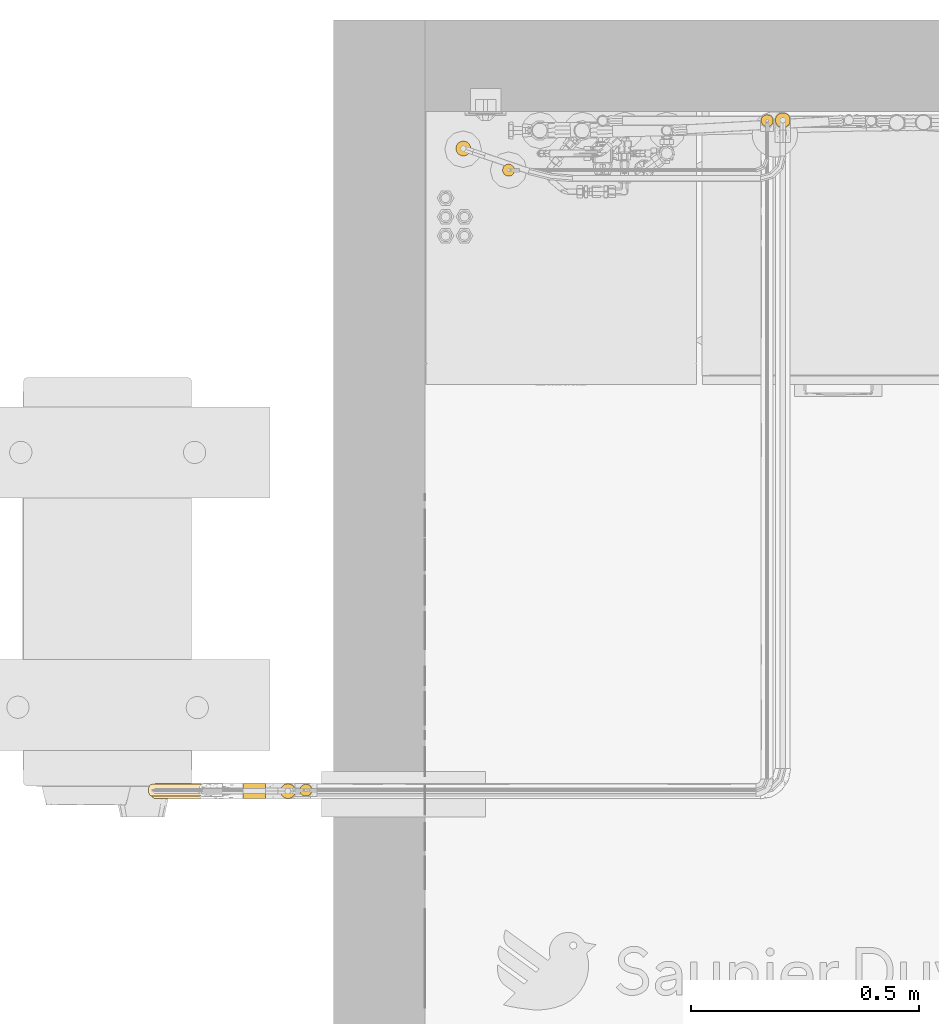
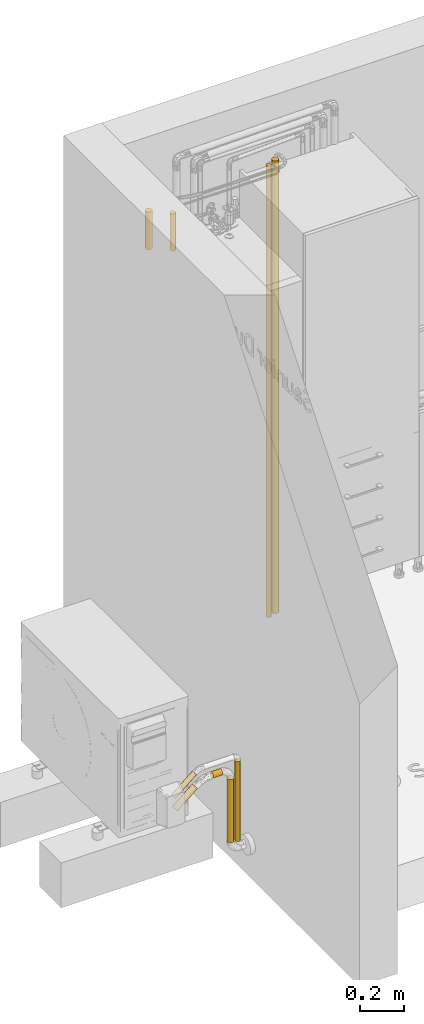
# One storey, part 2 of 30: 9 coverings.
"""IFC2X3 building model written with IfcOpenShell, lengths in metres."""

import ifcopenshell
import ifcopenshell.guid

model = None  # the IFC model being written
_history = None  # IfcOwnerHistory: only IFC2X3 demands one
_inside = {}  # id of a spatial element -> (the spatial element, [elements in it])
_under = {}  # id of a project, library or spatial element -> (it, [spatial elements below it])
_declared = {}  # id of a project -> (the project, [libraries it declares])
_typed = {}  # id of a type object -> (the type object, [elements of that type])
_made_of = {}  # id of a material, layer set ... -> (it, [elements and type objects made of it])


def new_model(schema):
    """Start an empty IFC model of exactly this schema.

    Asked for "IFC4X3", IfcOpenShell would pick the latest addendum, in which some entities
    have other attributes; the version numbers below select the first issue.
    IFC2X3 requires an IfcOwnerHistory on every rooted entity: one is made here for all.
    """
    global model, _history
    if schema == "IFC4X3":
        model = ifcopenshell.file(schema_version=(4, 3, 0, 0))
    else:
        model = ifcopenshell.file(schema=schema)
    _inside.clear()
    _under.clear()
    _declared.clear()
    _typed.clear()
    _made_of.clear()
    _history = None
    if model.schema == "IFC2X3":
        org = make("IfcOrganization", Name="unknown")
        user = make(
            "IfcPersonAndOrganization",
            ThePerson=make("IfcPerson", FamilyName="unknown"),
            TheOrganization=org,
        )
        app = make(
            "IfcApplication",
            ApplicationDeveloper=org,
            Version="unknown",
            ApplicationFullName="unknown",
            ApplicationIdentifier="unknown",
        )
        _history = make(
            "IfcOwnerHistory",
            OwningUser=user,
            OwningApplication=app,
            ChangeAction="ADDED",
            CreationDate=0,
        )
    return model


def make(cls, **values):
    """One entity of the class cls with the attributes given. An attribute that is None is left unset."""
    return model.create_entity(
        cls, **{name: value for name, value in values.items() if value is not None}
    )


def entity(cls, *values):
    """Any entity or typed value of the class cls, its attributes in the order of the schema. None: left unset."""
    e = model.create_entity(cls)
    for i, value in enumerate(values):
        if value is not None:
            e[i] = value
    return e


def rooted(cls, **values):
    """An entity with a GlobalId (a new one), such as an element, a storey or a relation."""
    return make(cls, GlobalId=ifcopenshell.guid.new(), OwnerHistory=_history, **values)


def si_unit(unit_type, name, prefix=None):
    """IfcSIUnit, for example si_unit("LENGTHUNIT", "METRE", prefix="MILLI")."""
    return make("IfcSIUnit", UnitType=unit_type, Prefix=prefix, Name=name)


def converted_unit(unit_type, name, factor, base, dimensions=None, offset=None):
    """IfcConversionBasedUnit, such as the inch: factor (a typed value) times the base unit."""
    return make(
        "IfcConversionBasedUnit"
        if offset is None
        else "IfcConversionBasedUnitWithOffset",
        ConversionOffset=offset,
        Dimensions=None
        if dimensions is None
        else entity("IfcDimensionalExponents", *dimensions),
        UnitType=unit_type,
        Name=name,
        ConversionFactor=make(
            "IfcMeasureWithUnit", ValueComponent=factor, UnitComponent=base
        ),
    )


def derived_unit(unit_type, elements):
    """IfcDerivedUnit: a product of units, each with its exponent."""
    return make(
        "IfcDerivedUnit",
        Elements=[
            make("IfcDerivedUnitElement", Unit=unit, Exponent=power)
            for unit, power in elements
        ],
        UnitType=unit_type,
    )


def assignment(units):
    """IfcUnitAssignment: the units of a project."""
    return None if units is None else make("IfcUnitAssignment", Units=units)


def point(xyz):
    """IfcCartesianPoint."""
    return None if xyz is None else make("IfcCartesianPoint", Coordinates=xyz)


def direction(xyz):
    """IfcDirection."""
    return None if xyz is None else make("IfcDirection", DirectionRatios=xyz)


def frame(location, z_axis=None, x_axis=None):
    """IfcAxis2Placement3D, a coordinate frame: its origin and axes. An axis left out is left unset."""
    return make(
        "IfcAxis2Placement3D",
        Location=point(location),
        Axis=direction(z_axis),
        RefDirection=direction(x_axis),
    )


def frame_2d(location, x_axis=None):
    """IfcAxis2Placement2D, a coordinate frame in the plane: its origin and x axis."""
    return make(
        "IfcAxis2Placement2D", Location=point(location), RefDirection=direction(x_axis)
    )


def origin():
    """The frame at (0, 0, 0) with its axes left unset."""
    return frame((0.0, 0.0, 0.0))


def origin_2d_with_axis():
    """The frame at (0, 0) in the plane with the x axis (1, 0) written out."""
    return frame_2d((0.0, 0.0), x_axis=(1.0, 0.0))


def place(relative_to, where):
    """IfcLocalPlacement: puts the frame where relative to a parent placement (None: the world)."""
    return make(
        "IfcLocalPlacement", PlacementRelTo=relative_to, RelativePlacement=where
    )


def context(
    kind, dimensions, precision=None, world=None, true_north=None, identifier=None
):
    """IfcGeometricRepresentationContext, for example the 3D "Model" context."""
    return make(
        "IfcGeometricRepresentationContext",
        ContextIdentifier=identifier,
        ContextType=kind,
        CoordinateSpaceDimension=dimensions,
        Precision=precision,
        WorldCoordinateSystem=world,
        TrueNorth=true_north,
    )


def subcontext(parent, identifier, kind, view, scale=None):
    """IfcGeometricRepresentationSubContext, for example "Body" below "Model"."""
    return make(
        "IfcGeometricRepresentationSubContext",
        ContextIdentifier=identifier,
        ContextType=kind,
        ParentContext=parent,
        TargetScale=scale,
        TargetView=view,
    )


def project(units=None, contexts=None):
    """IfcProject with its units and contexts."""
    return rooted(
        "IfcProject",
        Name="project",
        RepresentationContexts=contexts,
        UnitsInContext=assignment(units),
    )


def spatial(cls, under=None, at=None, **own):
    """A site, building, storey or space (cls), placed at a placement, below another one or the project."""
    s = rooted(cls, ObjectPlacement=at, **own)
    if under is not None:
        _under.setdefault(under.id(), (under, []))[1].append(s)
    return s


def profile(cls, at=None, kind="AREA", **sizes):
    """A parametric profile (cls). Its sizes go by their IFC names, for example OverallWidth=200.0."""
    return make(cls, ProfileType=kind, Position=at, **sizes)


def circle(**sizes):
    """IfcCircleProfileDef."""
    return profile("IfcCircleProfileDef", **sizes)


def extrude(swept, where, along, depth):
    """IfcExtrudedAreaSolid: the profile swept, set in the frame where, extruded along a direction by depth."""
    return make(
        "IfcExtrudedAreaSolid",
        SweptArea=swept,
        Position=where,
        ExtrudedDirection=direction(along),
        Depth=depth,
    )


def shape(context_of_items, identifier, shape_type, items):
    """IfcShapeRepresentation: the items that make up one representation, for example the "Body"."""
    return make(
        "IfcShapeRepresentation",
        ContextOfItems=context_of_items,
        RepresentationIdentifier=identifier,
        RepresentationType=shape_type,
        Items=items,
    )


def material(Name=None, Category=None):
    """IfcMaterial."""
    return make("IfcMaterial", Name=Name, Category=Category)


def made_of(thing, what):
    """Note that an element or type object is made of a material, layer set ...; save() writes the relation."""
    if what is not None:
        _made_of.setdefault(what.id(), (what, []))[1].append(thing)
    return thing


def type_object(cls, material=None, **own):
    """A type object (cls), such as IfcWallType, which elements share."""
    return made_of(rooted(cls, **own), material)


def element(
    cls,
    number,
    at=None,
    inside=None,
    cuts=None,
    type_object=None,
    material=None,
    context=None,
    identifier="Body",
    shape_type=None,
    held_by="IfcProductDefinitionShape",
    body=None,
    shapes=None,
    **own,
):
    """One element of the class cls, such as IfcWall. Its Tag is "e" and its number.

    at: its placement. inside: the storey or other place that contains it. cuts: it is an
    opening in that element (IfcRelVoidsElement). A single representation is given by context,
    identifier, shape_type and body (its items); several are given by shapes. held_by: the class
    of the entity that holds the representations. save() writes the other relations.
    """
    e = rooted(cls, Tag="e%d" % number, ObjectPlacement=at, **own)
    if body is not None:
        shapes = [shape(context, identifier, shape_type, body)]
    if shapes is not None:
        e.Representation = make(held_by, Representations=shapes)
    if inside is not None:
        _inside.setdefault(inside.id(), (inside, []))[1].append(e)
    if cuts is not None:
        rooted(
            "IfcRelVoidsElement", RelatingBuildingElement=cuts, RelatedOpeningElement=e
        )
    if type_object is not None:
        _typed.setdefault(type_object.id(), (type_object, []))[1].append(e)
    return made_of(e, material)


def aggregate(whole, parts):
    """IfcRelAggregates: a whole, such as a stair, and the parts it consists of."""
    return rooted("IfcRelAggregates", RelatingObject=whole, RelatedObjects=parts)


def save(model, path):
    """Write the relations noted so far, then the file.

    IfcRelAggregates (storeys below a building ...), IfcRelContainedInSpatialStructure (elements
    in a storey), IfcRelDefinesByType, IfcRelAssociatesMaterial and IfcRelDeclares: one each for
    every whole, place, type object, material and project.
    """
    for whole, parts in _under.values():
        aggregate(whole, parts)
    for where, things in _inside.values():
        rooted(
            "IfcRelContainedInSpatialStructure",
            RelatedElements=things,
            RelatingStructure=where,
        )
    for kind, things in _typed.values():
        rooted("IfcRelDefinesByType", RelatedObjects=things, RelatingType=kind)
    for what, things in _made_of.values():
        rooted("IfcRelAssociatesMaterial", RelatedObjects=things, RelatingMaterial=what)
    for by, libraries in _declared.values():
        rooted("IfcRelDeclares", RelatingContext=by, RelatedDefinitions=libraries)
    model.write(path)


model = new_model("IFC2X3")

# Units and contexts
model_context = context("Model", 3, precision=1e-05, world=origin(), true_north=direction((6.123031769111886e-17, 1.0)))
body_context = subcontext(model_context, "Body", "Model", "MODEL_VIEW")
ifc_project = project(units=[si_unit("LENGTHUNIT", "METRE"), si_unit("AREAUNIT", "SQUARE_METRE"), si_unit("VOLUMEUNIT", "CUBIC_METRE"), converted_unit("PLANEANGLEUNIT", "DEGREE", entity("IfcPlaneAngleMeasure", 0.017453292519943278), si_unit("PLANEANGLEUNIT", "RADIAN"), dimensions=[0, 0, 0, 0, 0, 0, 0]), si_unit("MASSUNIT", "GRAM", prefix="KILO"), derived_unit("MASSDENSITYUNIT", [(si_unit("MASSUNIT", "GRAM", prefix="KILO"), 1), (si_unit("LENGTHUNIT", "METRE"), -3)]), derived_unit("IONCONCENTRATIONUNIT", [(si_unit("MASSUNIT", "GRAM", prefix="KILO"), 1), (si_unit("LENGTHUNIT", "METRE"), -3)]), derived_unit("MOMENTOFINERTIAUNIT", [(si_unit("LENGTHUNIT", "METRE"), 4)]), si_unit("TIMEUNIT", "SECOND"), si_unit("FREQUENCYUNIT", "HERTZ"), si_unit("THERMODYNAMICTEMPERATUREUNIT", "DEGREE_CELSIUS"), derived_unit("THERMALTRANSMITTANCEUNIT", [(si_unit("MASSUNIT", "GRAM", prefix="KILO"), 1), (si_unit("THERMODYNAMICTEMPERATUREUNIT", "KELVIN"), -1), (si_unit("TIMEUNIT", "SECOND"), -3)]), derived_unit("THERMALCONDUCTANCEUNIT", [(si_unit("MASSUNIT", "GRAM", prefix="KILO"), 1), (si_unit("THERMODYNAMICTEMPERATUREUNIT", "KELVIN"), -1), (si_unit("TIMEUNIT", "SECOND"), -3), (si_unit("LENGTHUNIT", "METRE"), 1)]), derived_unit("VOLUMETRICFLOWRATEUNIT", [(si_unit("LENGTHUNIT", "METRE", prefix="DECI"), 3), (si_unit("TIMEUNIT", "SECOND"), -1)]), derived_unit("MASSFLOWRATEUNIT", [(si_unit("MASSUNIT", "GRAM", prefix="KILO"), 1), (si_unit("TIMEUNIT", "SECOND"), -1)]), derived_unit("ROTATIONALFREQUENCYUNIT", [(si_unit("TIMEUNIT", "SECOND"), -1)]), si_unit("ELECTRICCURRENTUNIT", "AMPERE"), si_unit("ELECTRICVOLTAGEUNIT", "VOLT"), si_unit("POWERUNIT", "WATT"), si_unit("FORCEUNIT", "NEWTON", prefix="KILO"), si_unit("ILLUMINANCEUNIT", "LUX"), si_unit("LUMINOUSFLUXUNIT", "LUMEN"), si_unit("LUMINOUSINTENSITYUNIT", "CANDELA"), si_unit("ENERGYUNIT", "JOULE"), derived_unit("USERDEFINED", [(si_unit("MASSUNIT", "GRAM", prefix="KILO"), -1), (si_unit("LENGTHUNIT", "METRE"), -2), (si_unit("TIMEUNIT", "SECOND"), 3), (si_unit("LUMINOUSFLUXUNIT", "LUMEN"), 1)]), derived_unit("USERDEFINED", [(si_unit("MASSUNIT", "GRAM", prefix="KILO"), 1), (si_unit("TIMEUNIT", "SECOND"), -3), (si_unit("LENGTHUNIT", "METRE"), 3), (si_unit("ELECTRICCURRENTUNIT", "AMPERE"), -2)]), derived_unit("SOUNDPOWERUNIT", [(si_unit("MASSUNIT", "GRAM", prefix="KILO"), 1), (si_unit("TIMEUNIT", "SECOND"), -3), (si_unit("LENGTHUNIT", "METRE"), 2)]), derived_unit("SOUNDPRESSUREUNIT", [(si_unit("MASSUNIT", "GRAM", prefix="KILO"), 1), (si_unit("LENGTHUNIT", "METRE"), -1), (si_unit("TIMEUNIT", "SECOND"), -2)]), derived_unit("LINEARVELOCITYUNIT", [(si_unit("LENGTHUNIT", "METRE"), 1), (si_unit("TIMEUNIT", "SECOND"), -1)]), si_unit("PRESSUREUNIT", "PASCAL"), derived_unit("USERDEFINED", [(si_unit("MASSUNIT", "GRAM", prefix="KILO"), 1), (si_unit("LENGTHUNIT", "METRE"), -2), (si_unit("TIMEUNIT", "SECOND"), -2)]), derived_unit("LINEARFORCEUNIT", [(si_unit("MASSUNIT", "GRAM", prefix="KILO"), 1), (si_unit("TIMEUNIT", "SECOND"), -2)]), derived_unit("PLANARFORCEUNIT", [(si_unit("MASSUNIT", "GRAM", prefix="KILO"), 1), (si_unit("LENGTHUNIT", "METRE"), -1), (si_unit("TIMEUNIT", "SECOND"), -2)]), derived_unit("SPECIFICHEATCAPACITYUNIT", [(si_unit("THERMODYNAMICTEMPERATUREUNIT", "KELVIN"), -1), (si_unit("LENGTHUNIT", "METRE"), 2), (si_unit("TIMEUNIT", "SECOND"), -2)]), derived_unit("HEATFLUXDENSITYUNIT", [(si_unit("MASSUNIT", "GRAM", prefix="KILO"), 1), (si_unit("TIMEUNIT", "SECOND"), -3)]), derived_unit("HEATINGVALUEUNIT", [(si_unit("LENGTHUNIT", "METRE"), 2), (si_unit("TIMEUNIT", "SECOND"), -2)]), derived_unit("VAPORPERMEABILITYUNIT", [(si_unit("LENGTHUNIT", "METRE"), -1), (si_unit("TIMEUNIT", "SECOND"), 1)]), derived_unit("DYNAMICVISCOSITYUNIT", [(si_unit("MASSUNIT", "GRAM", prefix="KILO"), 1), (si_unit("TIMEUNIT", "SECOND"), -1), (si_unit("LENGTHUNIT", "METRE"), -1)]), derived_unit("THERMALEXPANSIONCOEFFICIENTUNIT", [(si_unit("THERMODYNAMICTEMPERATUREUNIT", "KELVIN"), -1)]), derived_unit("MODULUSOFELASTICITYUNIT", [(si_unit("MASSUNIT", "GRAM", prefix="KILO"), 1), (si_unit("LENGTHUNIT", "METRE"), -1), (si_unit("TIMEUNIT", "SECOND"), -2)]), derived_unit("ISOTHERMALMOISTURECAPACITYUNIT", [(si_unit("MASSUNIT", "GRAM", prefix="KILO"), -1), (si_unit("LENGTHUNIT", "METRE"), 3)]), derived_unit("MOISTUREDIFFUSIVITYUNIT", [(si_unit("TIMEUNIT", "SECOND"), -1), (si_unit("LENGTHUNIT", "METRE"), 2)]), derived_unit("MASSPERLENGTHUNIT", [(si_unit("MASSUNIT", "GRAM", prefix="KILO"), 1), (si_unit("LENGTHUNIT", "METRE"), -1)]), derived_unit("THERMALRESISTANCEUNIT", [(si_unit("MASSUNIT", "GRAM", prefix="KILO"), -1), (si_unit("TIMEUNIT", "SECOND"), 3), (si_unit("THERMODYNAMICTEMPERATUREUNIT", "KELVIN"), 1)]), derived_unit("ACCELERATIONUNIT", [(si_unit("LENGTHUNIT", "METRE"), 1), (si_unit("TIMEUNIT", "SECOND"), -2)]), derived_unit("ANGULARVELOCITYUNIT", [(si_unit("TIMEUNIT", "SECOND"), -1), (si_unit("PLANEANGLEUNIT", "RADIAN"), 1)]), derived_unit("LINEARSTIFFNESSUNIT", [(si_unit("MASSUNIT", "GRAM", prefix="KILO"), 1), (si_unit("TIMEUNIT", "SECOND"), -2)]), derived_unit("WARPINGCONSTANTUNIT", [(si_unit("LENGTHUNIT", "METRE"), 6)]), derived_unit("LINEARMOMENTUNIT", [(si_unit("MASSUNIT", "GRAM", prefix="KILO"), 1), (si_unit("LENGTHUNIT", "METRE"), 1), (si_unit("TIMEUNIT", "SECOND"), -2)]), derived_unit("TORQUEUNIT", [(si_unit("MASSUNIT", "GRAM", prefix="KILO"), 1), (si_unit("LENGTHUNIT", "METRE"), 2), (si_unit("TIMEUNIT", "SECOND"), -2)])], contexts=[model_context])

# Site, building, storey
site_placement = place(None, origin())
site = spatial("IfcSite", under=ifc_project, at=site_placement, Name="Default", CompositionType="ELEMENT")
building_placement = place(site_placement, origin())
building = spatial("IfcBuilding", under=site, at=building_placement, CompositionType="ELEMENT")
storey_placement = place(building_placement, origin())
storey = spatial("IfcBuildingStorey", under=building, at=storey_placement, Name="Niveau 0", CompositionType="ELEMENT", Elevation=-1.949160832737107e-14)

# Coverings
ifc_material = material(Name="Matériau du rendu 255-255-255")
covering_type = type_object("IfcCoveringType", Name="Isolation des canalisations:Par défaut", PredefinedType="INSULATION")
covering_1_placement = place(storey_placement, origin())
element("IfcCovering", 1, at=covering_1_placement, inside=storey, type_object=covering_type, material=ifc_material, Name="Isolation des canalisations:Par défaut", ObjectType="Isolation des canalisations:Par défaut", PredefinedType="INSULATION", context=body_context, shape_type="SweptSolid", body=[
    extrude(circle(Radius=0.01635, at=frame_2d((0.0, -1.2689848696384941e-17), x_axis=(1.0, 0.0))), frame((-21.015311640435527, 1.3750530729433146, 0.03567251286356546), z_axis=(0.9999999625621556, 0.0, 0.0002736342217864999), x_axis=(0.0, -1.0, 0.0)), (0.0, 0.0, 1.0), 0.04967560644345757),
])
covering_2_placement = place(storey_placement, origin())
element("IfcCovering", 2, at=covering_2_placement, inside=storey, type_object=covering_type, material=ifc_material, Name="Isolation des canalisations:Par défaut", ObjectType="Isolation des canalisations:Par défaut", PredefinedType="INSULATION", context=body_context, shape_type="SweptSolid", body=[
    extrude(circle(Radius=0.01635, at=frame_2d((0.0, -7.776790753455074e-17), x_axis=(1.0, 0.0))), frame((-21.208033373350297, 1.375053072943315, -0.08467319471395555), z_axis=(0.7660444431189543, 0.0, 0.6427876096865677), x_axis=(0.0, -1.0, 0.0)), (0.0, 0.0, 1.0), 0.13792377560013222),
])
covering_3_placement = place(storey_placement, origin())
element("IfcCovering", 3, at=covering_3_placement, inside=storey, type_object=covering_type, material=ifc_material, Name="Isolation des canalisations:Par défaut", ObjectType="Isolation des canalisations:Par défaut", PredefinedType="INSULATION", context=body_context, shape_type="SweptSolid", body=[
    extrude(circle(Radius=0.01635, at=origin_2d_with_axis()), frame((-19.82878943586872, 2.849276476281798, -0.36570000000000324)), (0.0, 0.0, 1.0), 2.5215379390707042),
])
covering_4_placement = place(storey_placement, origin())
element("IfcCovering", 4, at=covering_4_placement, inside=storey, type_object=covering_type, material=ifc_material, Name="Isolation des canalisations:Par défaut", ObjectType="Isolation des canalisations:Par défaut", PredefinedType="INSULATION", context=body_context, shape_type="SweptSolid", body=[
    extrude(circle(Radius=0.01635, at=origin_2d_with_axis()), frame((-20.916336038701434, 1.3750530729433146, -0.36570000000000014), z_axis=(0.0, 0.0, 1.0), x_axis=(-1.616232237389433e-06, 1.0, 0.0)), (0.0, 0.0, 1.0), 0.3521028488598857),
])
covering_5_placement = place(storey_placement, origin())
element("IfcCovering", 5, at=covering_5_placement, inside=storey, type_object=covering_type, material=ifc_material, Name="Isolation des canalisations:Par défaut", ObjectType="Isolation des canalisations:Par défaut", PredefinedType="INSULATION", context=body_context, shape_type="SweptSolid", body=[
    extrude(circle(Radius=0.01635, at=origin_2d_with_axis()), frame((-20.530759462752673, 2.787065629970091, 1.9450000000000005), z_axis=(0.0, 0.0, 1.0), x_axis=(0.32556815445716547, 0.9455185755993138, 0.0)), (0.0, 0.0, 1.0), 0.21083793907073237),
])
covering_6_placement = place(storey_placement, origin())
element("IfcCovering", 6, at=covering_6_placement, inside=storey, type_object=covering_type, material=ifc_material, Name="Isolation des canalisations:Par défaut", ObjectType="Isolation des canalisations:Par défaut", PredefinedType="INSULATION", context=body_context, shape_type="SweptSolid", body=[
    extrude(circle(Radius=0.0132, at=frame_2d((0.0, -7.128724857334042e-17), x_axis=(1.0, 0.0))), frame((-21.21447863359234, 1.3770530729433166, -0.015673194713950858), z_axis=(0.7660444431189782, 0.0, 0.642787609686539), x_axis=(0.0, 1.0, 0.0)), (0.0, 0.0, 1.0), 0.14549999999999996),
])
covering_7_placement = place(storey_placement, origin())
element("IfcCovering", 7, at=covering_7_placement, inside=storey, type_object=covering_type, material=ifc_material, Name="Isolation des canalisations:Par défaut", ObjectType="Isolation des canalisations:Par défaut", PredefinedType="INSULATION", context=body_context, shape_type="SweptSolid", body=[
    extrude(circle(Radius=0.0132, at=frame_2d((8.662937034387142e-15, -1.895017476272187e-15), x_axis=(1.0, 0.0))), frame((-20.87690869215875, 1.377053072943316, -0.3758999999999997)), (0.0, 0.0, 1.0), 0.4451435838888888),
])
covering_8_placement = place(storey_placement, origin())
element("IfcCovering", 8, at=covering_8_placement, inside=storey, type_object=covering_type, material=ifc_material, Name="Isolation des canalisations:Par défaut", ObjectType="Isolation des canalisations:Par défaut", PredefinedType="INSULATION", context=body_context, shape_type="SweptSolid", body=[
    extrude(circle(Radius=0.0132, at=frame_2d((4.331468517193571e-15, 5.95576921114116e-15), x_axis=(1.0, 0.0))), frame((-20.4312893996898, 2.7395264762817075, 1.9300000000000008), z_axis=(0.0, 0.0, 1.0), x_axis=(-1.0, 0.0, 0.0)), (0.0, 0.0, 1.0), 0.2079885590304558),
])
covering_9_placement = place(storey_placement, origin())
element("IfcCovering", 9, at=covering_9_placement, inside=storey, type_object=covering_type, material=ifc_material, Name="Isolation des canalisations:Par défaut", ObjectType="Isolation des canalisations:Par défaut", PredefinedType="INSULATION", context=body_context, shape_type="SweptSolid", body=[
    extrude(circle(Radius=0.0132, at=origin_2d_with_axis()), frame((-19.86316439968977, 2.8482764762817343, -0.37589999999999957), z_axis=(0.0, 0.0, 1.0), x_axis=(0.0, -1.0, 0.0)), (0.0, 0.0, 1.0), 2.5138885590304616),
])

save(model, "model.ifc")
